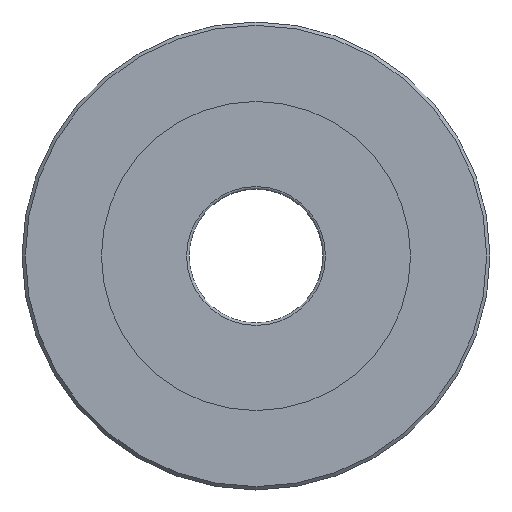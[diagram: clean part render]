
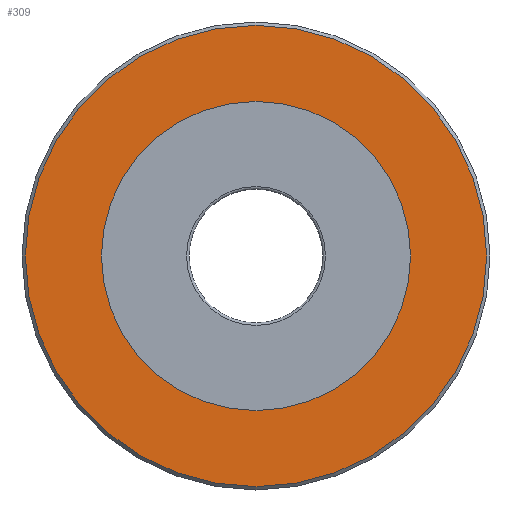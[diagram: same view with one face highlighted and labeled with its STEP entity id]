
A CAD part, left-side view. The second image highlights one B-rep face of the part: STEP entity #309.
In plain terms, the highlighted planar face has unit normal (-1, 0, 0).
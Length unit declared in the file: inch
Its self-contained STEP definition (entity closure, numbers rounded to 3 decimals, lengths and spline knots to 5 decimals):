
#282=CARTESIAN_POINT('',(11.25,34.62556,0.));
#283=VERTEX_POINT('',#282);
#284=CARTESIAN_POINT('',(11.25,20.82556,0.));
#285=DIRECTION('',(-1.,0.,0.));
#286=DIRECTION('',(0.,1.,0.));
#287=AXIS2_PLACEMENT_3D('',#284,#285,#286);
#288=CIRCLE('',#287,13.8);
#289=EDGE_CURVE('',#283,#283,#288,.T.);
#290=ORIENTED_EDGE('',*,*,#289,.T.);
#291=EDGE_LOOP('',(#290));
#292=FACE_OUTER_BOUND('',#291,.T.);
#293=CARTESIAN_POINT('',(11.25,30.07556,0.));
#294=VERTEX_POINT('',#293);
#295=CARTESIAN_POINT('',(11.25,20.82556,0.));
#296=DIRECTION('',(-1.,0.,0.));
#297=DIRECTION('',(0.,1.,0.));
#298=AXIS2_PLACEMENT_3D('',#295,#296,#297);
#299=CIRCLE('',#298,9.25);
#300=EDGE_CURVE('',#294,#294,#299,.T.);
#301=ORIENTED_EDGE('',*,*,#300,.F.);
#302=EDGE_LOOP('',(#301));
#303=FACE_BOUND('',#302,.T.);
#304=CARTESIAN_POINT('',(11.25,32.35056,0.));
#305=DIRECTION('',(-1.,0.,0.));
#306=DIRECTION('',(0.,1.,0.));
#307=AXIS2_PLACEMENT_3D('',#304,#305,#306);
#308=PLANE('',#307);
#309=ADVANCED_FACE('',(#292,#303),#308,.T.);
